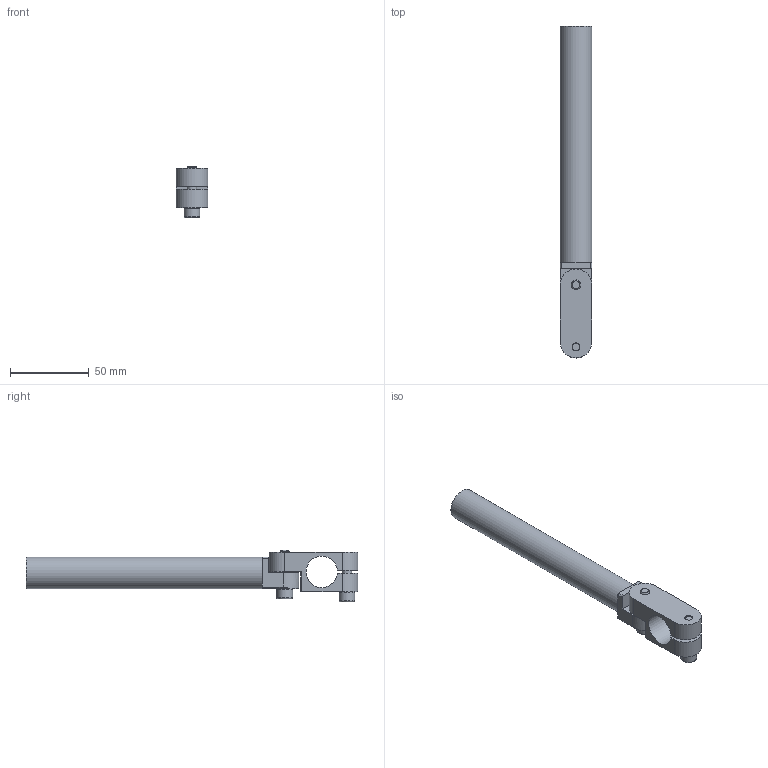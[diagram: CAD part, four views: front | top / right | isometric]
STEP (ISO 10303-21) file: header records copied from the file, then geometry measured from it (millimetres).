
FILE_DESCRIPTION(('STEP AP214'),'1');
FILE_NAME('CA.GLA.2020.150.stp','2020-09-21T09:15:39',(' '),(' '),'Spatial InterOp 3D',' ',' ');
FILE_SCHEMA(('AUTOMOTIVE_DESIGN { 1 0 10303 214 1 1 1 1 }'));
Length unit declared in the file: millimetre
Products named in the file (5): CA.GLA.2020.150; R.6.SCH; V.TCE6x25; GLA.20.2; GLA.20.1.150
Assembly tree (7 placements, depth 2):
  CA.GLA.2020.150
    R.6.SCH  x3
    V.TCE6x25  x2
    GLA.20.2
    GLA.20.1.150
Bounding box: 20 x 210.8 x 32.9 mm (x, y, z)
Volume: 44452.2 mm3; surface area: 25974.6 mm2
Topology: 7 solids, 7 shells, 651 faces, 1896 edges, 1257 vertices
Faces by surface type: plane 617, cylinder 25, cone 5, torus 4
Full cylindrical faces by diameter (mm): 5 x2, 6 x2, 6.2 x5, 9 x3, 10 x2, 16 x1, 20 x1
Entity records: 10336 total; most frequent: DIRECTION 1430, CARTESIAN_POINT 1423, ORIENTED_EDGE 1376, EDGE_CURVE 688, AXIS2_PLACEMENT_3D 488, VERTEX_POINT 465, LINE 454, VECTOR 454
